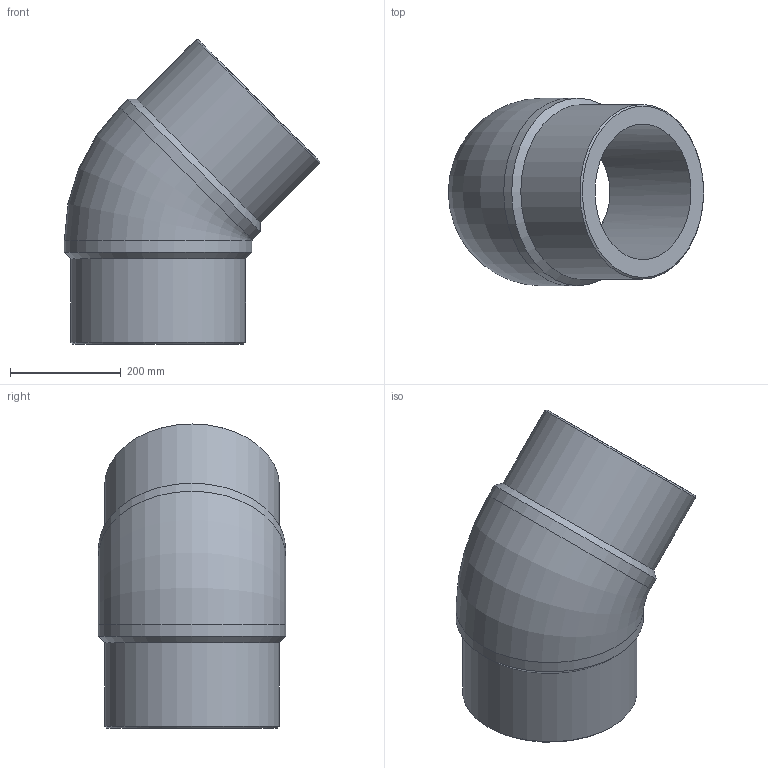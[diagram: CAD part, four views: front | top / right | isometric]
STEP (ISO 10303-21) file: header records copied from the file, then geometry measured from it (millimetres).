
FILE_DESCRIPTION(/* description */ ('Unknown'),/* implementation_level */ '2;1');
FILE_NAME(/* name */ 'G4P315G',/* time_stamp */ '2022-01-12T17:39:02+01:00',/* author */ ('Unknown'),/* organization */ ('Unknown'),/* preprocessor_version */ 'ST-DEVELOPER v18.1',/* originating_system */ 'Solid Edge',/* authorisation */ 'Unknown');
FILE_SCHEMA (('AUTOMOTIVE_DESIGN {1 0 10303 214 3 1 1}'));
Length unit declared in the file: millimetre
Products named in the file (1): G4P315G
Bounding box: 459.97 x 338 x 547.97 mm (x, y, z)
Volume: 17906305.9 mm3; surface area: 972620 mm2
Topology: 1 solids, 1 shells, 14 faces, 34 edges, 22 vertices
Faces by surface type: cylinder 6, cone 4, plane 2, torus 2
Full cylindrical faces by diameter (mm): 244.6 x2, 315 x2, 338 x2
Entity records: 370 total; most frequent: CARTESIAN_POINT 70, DIRECTION 60, ORIENTED_EDGE 38, AXIS2_PLACEMENT_3D 30, EDGE_LOOP 27, FACE_BOUND 27, EDGE_CURVE 19, VERTEX_POINT 18
